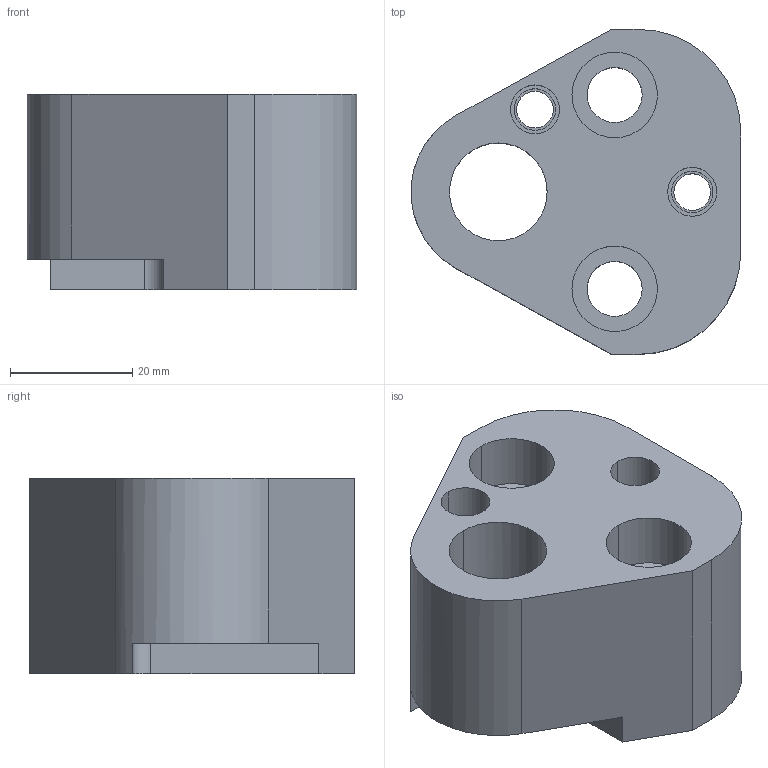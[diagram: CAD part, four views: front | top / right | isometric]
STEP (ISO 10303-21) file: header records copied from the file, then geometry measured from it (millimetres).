
FILE_DESCRIPTION(/* description */ (''),/* implementation_level */ '2;1');
FILE_NAME(/* name */ '3d_crn-f16_03642_r00.stp',/* time_stamp */ '2011-01-10T14:16:22+09:00',/* author */ ('MISUMI'),/* organization */ (''),/* preprocessor_version */ 'ST-DEVELOPER v11',/* originating_system */ 'UGS - NX 5.0',/* authorisation */ '');
FILE_SCHEMA (('CONFIG_CONTROL_DESIGN'));
Length unit declared in the file: millimetre
Products named in the file (1): 3d_crn-f16_03642_r00
Bounding box: 53.96 x 53.2 x 32 mm (x, y, z)
Volume: 51934.5 mm3; surface area: 13817.8 mm2
Topology: 1 solids, 1 shells, 44 faces, 110 edges, 73 vertices
Faces by surface type: cylinder 26, plane 16, cone 2
Entity records: 1451 total; most frequent: DIRECTION 255, CARTESIAN_POINT 233, ORIENTED_EDGE 220, EDGE_CURVE 110, AXIS2_PLACEMENT_3D 101, VERTEX_POINT 73, EDGE_LOOP 59, CIRCLE 56
